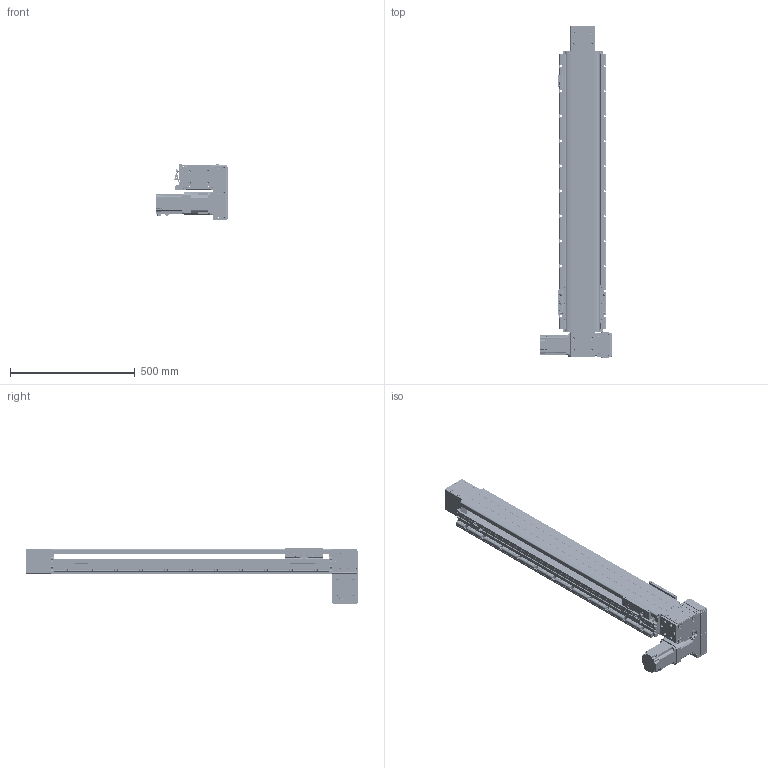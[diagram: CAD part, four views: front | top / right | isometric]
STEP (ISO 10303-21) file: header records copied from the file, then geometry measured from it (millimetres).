
FILE_DESCRIPTION(/* description */ (''),/* implementation_level */ '2;1');
FILE_NAME(/* name */ '\\192.168.0.160\disk1\HAN SHIN Master\B-설계부문\C-표준\B-2024년\BC02-표준도면\+로봇 개선표준도면\홈페이지 표준 도면\홈페이지 최종 작업 폴더\3D\HB\HB160-DR7G-N-0900-L.stp',/* time_stamp */ '2025-01-14T08:57:16+09:00',/* author */ ('user'),/* organization */ (''),/* preprocessor_version */ 'ST-DEVELOPER v18.1',/* originating_system */ 'Autodesk Inventor 2022',/* authorisation */ '');
FILE_SCHEMA (('AUTOMOTIVE_DESIGN { 1 0 10303 214 3 1 1 }'));
Products named in the file (41): HSB160-DR7G-N-0500-L; BASE; HSB160 TABLE (TEST); FORNT HOUSUNG-1 (Connecting); UPCOVER; HSB160 COVER-1; REAR HOUSUNG-1---; HSB160 REAR SHAFT-2; REAR SHAFT--2; 6004ZZ; 6004ZZ Outer ring; 6004ZZ Shield1; 6004ZZ Inner ring; 6004ZZ Ball; 6004ZZ Shield2; STOPPER3; TENSION PLATE; HSB160 ARC COVER; hsr_ftht_A-M6F_grease_nipple_joint; NIPPLE CAP(신규); HSB160 SHAFT-1; HSB160 END COVER; HR120 SENSOR DOG; SENSOR BRK(EE-SX674A); EE_SX674A; hg-kr73_; PGX90-H-1_3; 6206ZZ; 6206ZZ Outer ring; 6206ZZ Shield1; 6206ZZ Inner ring; 6206ZZ Ball; 6206ZZ Shield2; D MOTOR PLATE ASSY; HSB160 D MOTOR PLATE; HR160 400W LR BELT COVER; 750W MOTOR PLATE; HR180 ACRYL COVER - 1; HR180 ACRYL COVER - 1_1; HR180 ACRYL COVER - 1_2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
Assembly tree (85 placements, depth 3):
  HSB160-DR7G-N-0500-L
    BASE
    HSB160 TABLE (TEST)
    FORNT HOUSUNG-1 (Connecting)
    6206ZZ  x2
      6206ZZ Outer ring
      6206ZZ Shield1
      6206ZZ Inner ring
      6206ZZ Ball
      6206ZZ Shield2
    UPCOVER
    HSB160 COVER-1  x2
    REAR HOUSUNG-1---
    6004ZZ  x2
      6004ZZ Outer ring
      6004ZZ Shield1
      6004ZZ Inner ring
      6004ZZ Ball
      6004ZZ Shield2
    HSB160 REAR SHAFT-2
    REAR SHAFT--2
    TENSION PLATE  x2
    HSB160 ARC COVER  x4
    STOPPER3  x4
    hsr_ftht_A-M6F_grease_nipple_joint  x4
    NIPPLE CAP(신규)  x4
    HSB160 SHAFT-1
    HSB160 END COVER
    SENSOR BRK(EE-SX674A)  x3
    EE_SX674A  x3
    HR120 SENSOR DOG
    hg-kr73_
    PGX90-H-1_3
    D MOTOR PLATE ASSY
      HSB160 D MOTOR PLATE
      HR160 400W LR BELT COVER
      750W MOTOR PLATE
      HR180 ACRYL COVER - 1_2  x2
      HR180 ACRYL COVER - 1
      HR180 ACRYL COVER - 1_1
    HSB160 BEARING COVER_대칭도
Bounding box: 284.5 x 1328.5 x 226.5 mm (x, y, z)
Volume: 8722801.5 mm3; surface area: 2156513.5 mm2
Topology: 129 solids, 131 shells, 6494 faces, 17851 edges, 11736 vertices
Faces by surface type: plane 4558, cylinder 1391, cone 373, sphere 88, torus 59, bspline 25
Full cylindrical faces by diameter (mm): 2.013 x2, 2.459 x54, 3 x20, 3.242 x42, 3.4 x22, 3.5 x6, 4.134 x18, 4.2 x4, 4.5 x40, 4.917 x80, 5 x44, 5.1 x1, 5.5 x25, 5.6 x4, 5.9 x4, 6 x21, 6.5 x9, 6.6 x18, 6.8 x9, 7 x32, 7.6 x4, 8 x5, 8.376 x22, 8.433 x2, 9 x4, 9.5 x31, 10 x5, 11 x28, 15 x8, 18.5 x2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
Entity records: 119542 total; most frequent: CARTESIAN_POINT 22632, DIRECTION 19886, ORIENTED_EDGE 19294, EDGE_CURVE 9647, AXIS2_PLACEMENT_3D 6765, VERTEX_POINT 6377, LINE 6356, VECTOR 6356
